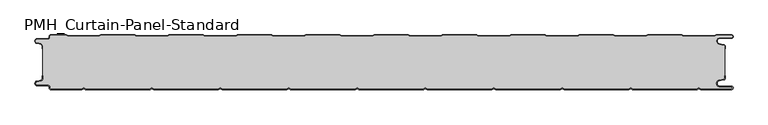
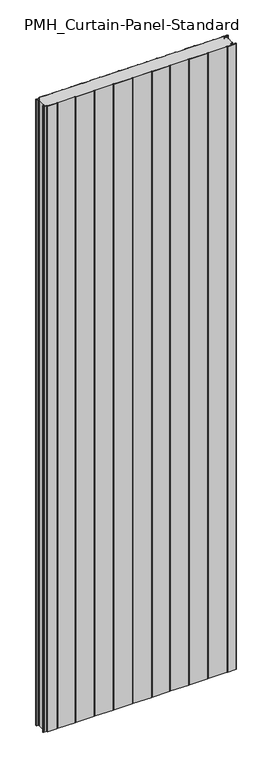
"""IFC4 building model written with IfcOpenShell, lengths in millimetres: plate geometry, PMH_Curtain-Panel-Standard : ACH_PMH_Acoustic-Sectioning-Panel_80M."""

from ifc_helpers import new_model, si_unit, point, frame_2d, origin, origin_with_axes, place, context, project, spatial, polyline, circle_curve, trimmed, segment, composite_curve, outline, extrude, source, transform, mapped, element, save


def pmh_curtain_panel_standard_897669c1(model_context):
    return source(origin(), model_context, "Body", "SweptSolid", [
        extrude(outline(composite_curve([segment(polyline([(-500.0, 15.878557), (-500.0, 20.0), (-499.2, 20.0), (-499.2, 15.878557)]), True, "CONTINUOUS"), segment(trimmed(circle_curve(frame_2d((-502.0, 15.878557)), 2.8), [point((-499.2, 15.878557))], [point((-501.370137, 13.1503208))], False, "CARTESIAN"), True, "CONTINUOUS"), segment(polyline([(-501.370137, 13.1503208), (-507.529863, 11.728236)]), True, "CONTINUOUS"), segment(trimmed(circle_curve(frame_2d((-506.9, 9.0)), 2.8), [point((-507.529863, 11.728236))], [point((-506.9, 6.2))], True, "CARTESIAN"), True, "CONTINUOUS"), segment(polyline([(-506.9, 6.2), (-491.4, 6.2)]), True, "CONTINUOUS"), segment(trimmed(circle_curve(frame_2d((-491.4, 3.4)), 2.8), [point((-491.4, 6.2))], [point((-488.6, 3.4))], False, "CARTESIAN"), True, "CONTINUOUS"), segment(polyline([(-488.6, 3.4), (-488.6, 2.0)]), True, "CONTINUOUS"), segment(trimmed(circle_curve(frame_2d((-487.4, 2.0)), 1.2), [point((-488.6, 2.0))], [point((-487.4, 0.8))], True, "CARTESIAN"), True, "CONTINUOUS"), segment(polyline([(-487.4, 0.8), (-442.3143588, 0.8), (-439.4, 2.482606), (-436.4856412, 0.8), (-342.3143588, 0.8), (-339.4, 2.482606), (-336.4856412, 0.8), (-242.3143588, 0.8), (-239.4, 2.482606), (-236.4856412, 0.8), (-142.3143588, 0.8), (-139.4, 2.482606), (-136.4856412, 0.8), (-42.3143588, 0.8), (-39.4, 2.482606), (-36.4856412, 0.8), (57.6856412, 0.8), (60.6, 2.482606), (63.5143588, 0.8), (157.6856412, 0.8), (160.6, 2.482606), (163.5143588, 0.8), (257.6856412, 0.8), (260.6, 2.482606), (263.5143588, 0.8), (357.6856412, 0.8), (360.6, 2.482606), (363.5143588, 0.8), (457.6856412, 0.8), (460.6, 2.482606), (463.5143588, 0.8), (508.1, 0.8)]), True, "CONTINUOUS"), segment(trimmed(circle_curve(frame_2d((508.1, 2.5)), 1.7), [point((508.1, 0.8))], [point((508.1, 4.2))], True, "CARTESIAN"), True, "CONTINUOUS"), segment(polyline([(508.1, 4.2), (491.1, 4.2)]), True, "CONTINUOUS"), segment(trimmed(circle_curve(frame_2d((491.1, 9.0)), 4.8), [point((491.1, 4.2))], [point((490.2664884, 13.7270771))], False, "CARTESIAN"), True, "CONTINUOUS"), segment(polyline([(490.2664884, 13.7270771), (496.7125669, 14.8636953)]), True, "CONTINUOUS"), segment(trimmed(circle_curve(frame_2d((496.4, 16.6363492)), 1.8), [point((496.7125669, 14.8636953))], [point((498.2, 16.6363492))], True, "CARTESIAN"), True, "CONTINUOUS"), segment(polyline([(498.2, 16.6363492), (498.2, 20.0), (499.0, 20.0), (499.0, 16.6363492)]), True, "CONTINUOUS"), segment(trimmed(circle_curve(frame_2d((496.4, 16.6363492)), 2.6), [point((499.0, 16.6363492))], [point((496.8514855, 14.0758491))], False, "CARTESIAN"), True, "CONTINUOUS"), segment(polyline([(496.8514855, 14.0758491), (490.405407, 12.939231)]), True, "CONTINUOUS"), segment(trimmed(circle_curve(frame_2d((491.1, 9.0)), 4.0), [point((490.405407, 12.939231))], [point((491.1, 5.0))], True, "CARTESIAN"), True, "CONTINUOUS"), segment(polyline([(491.1, 5.0), (508.1, 5.0)]), True, "CONTINUOUS"), segment(trimmed(circle_curve(frame_2d((508.1, 2.5)), 2.5), [point((508.1, 5.0))], [point((508.1, 0.0))], False, "CARTESIAN"), True, "CONTINUOUS"), segment(polyline([(508.1, 0.0), (463.2999995, 0.0), (460.6, 1.5588455), (457.9000005, 0.0), (363.2999995, 0.0), (360.6, 1.5588455), (357.9000005, 0.0), (263.2999995, 0.0), (260.6, 1.5588455), (257.9000005, 0.0), (163.2999995, 0.0), (160.6, 1.5588455), (157.9000005, 0.0), (63.2999995, 0.0), (60.6, 1.5588455), (57.9000005, 0.0), (-36.7000005, 0.0), (-39.4, 1.5588455), (-42.0999995, 0.0), (-136.7000005, 0.0), (-139.4, 1.5588455), (-142.0999995, 0.0), (-236.7000005, 0.0), (-239.4, 1.5588455), (-242.0999995, 0.0), (-336.7000005, 0.0), (-339.4, 1.5588455), (-342.0999995, 0.0), (-436.7000005, 0.0), (-439.4, 1.5588455), (-442.0999995, 0.0), (-487.4, 0.0)]), True, "CONTINUOUS"), segment(trimmed(circle_curve(frame_2d((-487.4, 2.0)), 2.0), [point((-487.4, 0.0))], [point((-489.4, 2.0))], False, "CARTESIAN"), True, "CONTINUOUS"), segment(polyline([(-489.4, 2.0), (-489.4, 3.4)]), True, "CONTINUOUS"), segment(trimmed(circle_curve(frame_2d((-491.4, 3.4)), 2.0), [point((-489.4, 3.4))], [point((-491.4, 5.4))], True, "CARTESIAN"), True, "CONTINUOUS"), segment(polyline([(-491.4, 5.4), (-506.9, 5.4)]), True, "CONTINUOUS"), segment(trimmed(circle_curve(frame_2d((-506.9, 9.0)), 3.6), [point((-506.9, 5.4))], [point((-507.7098239, 12.5077322))], False, "CARTESIAN"), True, "CONTINUOUS"), segment(polyline([(-507.7098239, 12.5077322), (-501.5500979, 13.929817)]), True, "CONTINUOUS"), segment(trimmed(circle_curve(frame_2d((-502.0, 15.878557)), 2.0), [point((-501.5500979, 13.929817))], [point((-500.0, 15.878557))], True, "CARTESIAN"), True, "CONTINUOUS")], self_intersect=False)), origin_with_axes(), (0.0, 0.0, 1.0), 3500.0),
        extrude(outline(composite_curve([segment(trimmed(circle_curve(frame_2d((-502.0, 64.121443)), 2.8), [point((-499.2, 64.121443))], [point((-501.370137, 66.8496792))], True, "CARTESIAN"), True, "CONTINUOUS"), segment(polyline([(-501.370137, 66.8496792), (-507.529863, 68.271764)]), True, "CONTINUOUS"), segment(trimmed(circle_curve(frame_2d((-506.9, 71.0)), 2.7999998), [point((-507.529863, 68.271764))], [point((-506.9, 73.7999998))], False, "CARTESIAN"), True, "CONTINUOUS"), segment(polyline([(-506.9, 73.7999998), (-491.4, 73.7999998)]), True, "CONTINUOUS"), segment(trimmed(circle_curve(frame_2d((-491.4, 76.5999998)), 2.8), [point((-491.4, 73.7999998))], [point((-488.6, 76.5999998))], True, "CARTESIAN"), True, "CONTINUOUS"), segment(polyline([(-488.6, 76.5999998), (-488.6, 78.0)]), True, "CONTINUOUS"), segment(trimmed(circle_curve(frame_2d((-487.4, 78.0)), 1.2), [point((-488.6, 78.0))], [point((-487.4, 79.2))], False, "CARTESIAN"), True, "CONTINUOUS"), segment(polyline([(-487.4, 79.2), (-464.6143592, 79.2), (-462.0162816, 77.7), (-416.7875654, 77.7), (-414.1894878, 79.2), (-364.6143592, 79.2), (-362.0162816, 77.7), (-316.7875654, 77.7), (-314.1894878, 79.2), (-264.6143592, 79.2), (-262.0162816, 77.7), (-216.7875654, 77.7), (-214.1894878, 79.2), (-164.6143592, 79.2), (-162.0162816, 77.7), (-116.7875654, 77.7), (-114.1894878, 79.2), (-64.6143592, 79.2), (-62.0162816, 77.7), (-16.7875654, 77.7), (-14.1894878, 79.2), (35.3856408, 79.2), (37.9837184, 77.7), (83.2124346, 77.7), (85.8105122, 79.2), (135.3856408, 79.2), (137.9837184, 77.7), (183.2124346, 77.7), (185.8105122, 79.2), (235.3856408, 79.2), (237.9837184, 77.7), (283.2124346, 77.7), (285.8105122, 79.2), (335.3856408, 79.2), (337.9837184, 77.7), (383.2124346, 77.7), (385.8105122, 79.2), (435.3856408, 79.2), (437.9837184, 77.7), (483.2124346, 77.7), (485.8105122, 79.2), (508.1, 79.2)]), True, "CONTINUOUS"), segment(trimmed(circle_curve(frame_2d((508.1, 77.5)), 1.7), [point((508.1, 79.2))], [point((508.1, 75.8000001))], False, "CARTESIAN"), True, "CONTINUOUS"), segment(polyline([(508.1, 75.8000001), (491.1, 75.8000001)]), True, "CONTINUOUS"), segment(trimmed(circle_curve(frame_2d((491.1, 71.0000002)), 4.7999999), [point((491.1, 75.8000001))], [point((490.266489, 66.272923))], True, "CARTESIAN"), True, "CONTINUOUS"), segment(polyline([(490.266489, 66.272923), (496.7125666, 65.1363059)]), True, "CONTINUOUS"), segment(trimmed(circle_curve(frame_2d((496.4, 63.363652)), 1.8), [point((496.7125666, 65.1363059))], [point((498.2, 63.363652))], False, "CARTESIAN"), True, "CONTINUOUS"), segment(polyline([(498.2, 63.363652), (498.2, 16.6363492)]), True, "CONTINUOUS"), segment(trimmed(circle_curve(frame_2d((496.4, 16.6363492)), 1.8), [point((498.2, 16.6363492))], [point((496.7125668, 14.8636953))], False, "CARTESIAN"), True, "CONTINUOUS"), segment(polyline([(496.7125668, 14.8636953), (490.2664883, 13.7270771)]), True, "CONTINUOUS"), segment(trimmed(circle_curve(frame_2d((491.1, 9.0)), 4.8), [point((490.2664883, 13.7270771))], [point((491.1, 4.2))], True, "CARTESIAN"), True, "CONTINUOUS"), segment(polyline([(491.1, 4.2), (508.1, 4.2)]), True, "CONTINUOUS"), segment(trimmed(circle_curve(frame_2d((508.1, 2.5)), 1.7), [point((508.1, 4.2))], [point((508.1, 0.8))], False, "CARTESIAN"), True, "CONTINUOUS"), segment(polyline([(508.1, 0.8), (463.5143587, 0.8), (460.5999999, 2.482606), (457.6856411, 0.8), (363.5143588, 0.8), (360.5999999, 2.482606), (357.6856411, 0.8), (263.5143588, 0.8), (260.5999999, 2.482606), (257.6856411, 0.8), (163.5143588, 0.8), (160.5999999, 2.482606), (157.6856411, 0.8), (63.5143588, 0.8), (60.5999999, 2.482606), (57.6856411, 0.8), (-36.4856412, 0.8), (-39.4000001, 2.482606), (-42.3143589, 0.8), (-136.4856412, 0.8), (-139.4000001, 2.482606), (-142.3143589, 0.8), (-236.4856412, 0.8), (-239.4000001, 2.482606), (-242.3143589, 0.8), (-336.4856412, 0.8), (-339.4000001, 2.482606), (-342.3143589, 0.8), (-436.4856412, 0.8), (-439.4000001, 2.482606), (-442.3143589, 0.8), (-487.4000001, 0.8)]), True, "CONTINUOUS"), segment(trimmed(circle_curve(frame_2d((-487.4000001, 2.0)), 1.2), [point((-487.4000001, 0.8))], [point((-488.6000001, 2.0))], False, "CARTESIAN"), True, "CONTINUOUS"), segment(polyline([(-488.6000001, 2.0), (-488.6000001, 3.4)]), True, "CONTINUOUS"), segment(trimmed(circle_curve(frame_2d((-491.4000001, 3.4)), 2.8), [point((-488.6000001, 3.4))], [point((-491.4000001, 6.2))], True, "CARTESIAN"), True, "CONTINUOUS"), segment(polyline([(-491.4000001, 6.2), (-506.9, 6.2)]), True, "CONTINUOUS"), segment(trimmed(circle_curve(frame_2d((-506.9, 9.0)), 2.8), [point((-506.9, 6.2))], [point((-507.5298631, 11.7282362))], False, "CARTESIAN"), True, "CONTINUOUS"), segment(polyline([(-507.5298631, 11.7282362), (-501.370137, 13.1503212)]), True, "CONTINUOUS"), segment(trimmed(circle_curve(frame_2d((-502.0, 15.8785573)), 2.8), [point((-501.370137, 13.1503212))], [point((-499.2, 15.8785573))], True, "CARTESIAN"), True, "CONTINUOUS"), segment(polyline([(-499.2, 15.8785573), (-499.2, 64.121443)]), True, "CONTINUOUS")], self_intersect=False)), origin_with_axes(), (0.0, 0.0, 1.0), 3500.0),
        extrude(outline(composite_curve([segment(polyline([(-487.4, 80.0), (-464.3999999, 80.0), (-461.8019223, 78.5), (-417.0019247, 78.5), (-414.4038471, 80.0), (-364.3999999, 80.0), (-361.8019223, 78.5), (-317.0019247, 78.5), (-314.4038471, 80.0), (-264.3999999, 80.0), (-261.8019223, 78.5), (-217.0019247, 78.5), (-214.4038471, 80.0), (-164.3999999, 80.0), (-161.8019223, 78.5), (-117.0019247, 78.5), (-114.4038471, 80.0), (-64.3999999, 80.0), (-61.8019223, 78.5), (-17.0019247, 78.5), (-14.4038471, 80.0), (35.6000001, 80.0), (38.1980777, 78.5), (82.9980753, 78.5), (85.5961529, 80.0), (135.6000001, 80.0), (138.1980777, 78.5), (182.9980753, 78.5), (185.5961529, 80.0), (235.6000001, 80.0), (238.1980777, 78.5), (282.9980753, 78.5), (285.5961529, 80.0), (335.6000001, 80.0), (338.1980777, 78.5), (382.9980753, 78.5), (385.5961529, 80.0), (435.6000001, 80.0), (438.1980777, 78.5), (482.9980753, 78.5), (485.5961529, 80.0), (508.1, 80.0)]), True, "CONTINUOUS"), segment(trimmed(circle_curve(frame_2d((508.1, 77.5)), 2.5), [point((508.1, 80.0))], [point((508.1, 75.0))], False, "CARTESIAN"), True, "CONTINUOUS"), segment(polyline([(508.1, 75.0), (491.1, 75.0)]), True, "CONTINUOUS"), segment(trimmed(circle_curve(frame_2d((491.1, 71.0)), 4.0), [point((491.1, 75.0))], [point((490.4054075, 67.060769))], True, "CARTESIAN"), True, "CONTINUOUS"), segment(polyline([(490.4054075, 67.060769), (496.8514851, 65.924152)]), True, "CONTINUOUS"), segment(trimmed(circle_curve(frame_2d((496.4, 63.363652)), 2.6), [point((496.8514851, 65.924152))], [point((499.0, 63.363652))], False, "CARTESIAN"), True, "CONTINUOUS"), segment(polyline([(499.0, 63.363652), (499.0, 60.0), (498.2, 60.0), (498.2, 63.363652)]), True, "CONTINUOUS"), segment(trimmed(circle_curve(frame_2d((496.4, 63.363652)), 1.8), [point((498.2, 63.363652))], [point((496.7125666, 65.136306))], True, "CARTESIAN"), True, "CONTINUOUS"), segment(polyline([(496.7125666, 65.136306), (490.266489, 66.2729229)]), True, "CONTINUOUS"), segment(trimmed(circle_curve(frame_2d((491.1, 71.0)), 4.8), [point((490.266489, 66.2729229))], [point((491.1, 75.8))], False, "CARTESIAN"), True, "CONTINUOUS"), segment(polyline([(491.1, 75.8), (508.1, 75.8)]), True, "CONTINUOUS"), segment(trimmed(circle_curve(frame_2d((508.1, 77.5)), 1.7), [point((508.1, 75.8))], [point((508.1, 79.2))], True, "CARTESIAN"), True, "CONTINUOUS"), segment(polyline([(508.1, 79.2), (485.8105122, 79.2), (483.2124346, 77.7), (437.9837184, 77.7), (435.3856408, 79.2), (385.8105122, 79.2), (383.2124346, 77.7), (337.9837184, 77.7), (335.3856408, 79.2), (285.8105122, 79.2), (283.2124346, 77.7), (237.9837184, 77.7), (235.3856408, 79.2), (185.8105122, 79.2), (183.2124346, 77.7), (137.9837184, 77.7), (135.3856408, 79.2), (85.8105122, 79.2), (83.2124346, 77.7), (37.9837184, 77.7), (35.3856408, 79.2), (-14.1894878, 79.2), (-16.7875654, 77.7), (-62.0162816, 77.7), (-64.6143592, 79.2), (-114.1894878, 79.2), (-116.7875654, 77.7), (-162.0162816, 77.7), (-164.6143592, 79.2), (-214.1894878, 79.2), (-216.7875654, 77.7), (-262.0162816, 77.7), (-264.6143592, 79.2), (-314.1894878, 79.2), (-316.7875654, 77.7), (-362.0162816, 77.7), (-364.6143592, 79.2), (-414.1894878, 79.2), (-416.7875654, 77.7), (-462.0162816, 77.7), (-464.6143592, 79.2), (-487.4, 79.2)]), True, "CONTINUOUS"), segment(trimmed(circle_curve(frame_2d((-487.4, 78.0)), 1.2), [point((-487.4, 79.2))], [point((-488.6, 78.0))], True, "CARTESIAN"), True, "CONTINUOUS"), segment(polyline([(-488.6, 78.0), (-488.6, 76.6)]), True, "CONTINUOUS"), segment(trimmed(circle_curve(frame_2d((-491.4, 76.6)), 2.8), [point((-488.6, 76.6))], [point((-491.4, 73.8))], False, "CARTESIAN"), True, "CONTINUOUS"), segment(polyline([(-491.4, 73.8), (-506.9, 73.8)]), True, "CONTINUOUS"), segment(trimmed(circle_curve(frame_2d((-506.9, 71.0)), 2.8), [point((-506.9, 73.8))], [point((-507.529863, 68.2717638))], True, "CARTESIAN"), True, "CONTINUOUS"), segment(polyline([(-507.529863, 68.2717638), (-501.370137, 66.849679)]), True, "CONTINUOUS"), segment(trimmed(circle_curve(frame_2d((-502.0, 64.121443)), 2.8), [point((-501.370137, 66.849679))], [point((-499.2, 64.121443))], False, "CARTESIAN"), True, "CONTINUOUS"), segment(polyline([(-499.2, 64.121443), (-499.2, 60.0), (-500.0, 60.0), (-500.0, 64.121443)]), True, "CONTINUOUS"), segment(trimmed(circle_curve(frame_2d((-502.0, 64.121443)), 2.0), [point((-500.0, 64.121443))], [point((-501.5500978, 66.0701831))], True, "CARTESIAN"), True, "CONTINUOUS"), segment(polyline([(-501.5500978, 66.0701831), (-507.7098239, 67.492268)]), True, "CONTINUOUS"), segment(trimmed(circle_curve(frame_2d((-506.9, 71.0)), 3.6), [point((-507.7098239, 67.492268))], [point((-506.9, 74.6))], False, "CARTESIAN"), True, "CONTINUOUS"), segment(polyline([(-506.9, 74.6), (-491.4, 74.6)]), True, "CONTINUOUS"), segment(trimmed(circle_curve(frame_2d((-491.4, 76.6)), 2.0), [point((-491.4, 74.6))], [point((-489.4, 76.6))], True, "CARTESIAN"), True, "CONTINUOUS"), segment(polyline([(-489.4, 76.6), (-489.4, 78.0)]), True, "CONTINUOUS"), segment(trimmed(circle_curve(frame_2d((-487.4, 78.0)), 2.0), [point((-489.4, 78.0))], [point((-487.4, 80.0))], False, "CARTESIAN"), True, "CONTINUOUS")], self_intersect=False)), origin_with_axes(), (0.0, 0.0, 1.0), 3500.0),
    ])


if __name__ == "__main__":
    model = new_model("IFC4")
    model_context = context("Model", 3, world=origin())
    ifc_project = project(units=[si_unit("LENGTHUNIT", "METRE", prefix="MILLI")], contexts=[model_context])
    site = spatial("IfcSite", under=ifc_project)
    building = spatial("IfcBuilding", under=site)
    placement = place(None, origin())
    pmh_curtain_panel_standard_shape = pmh_curtain_panel_standard_897669c1(model_context)
    element("IfcPlate", 1, ObjectType="PMH_Curtain-Panel-Standard : ACH_PMH_Acoustic-Sectioning-Panel_80M", at=placement, inside=building, context=model_context, shape_type="MappedRepresentation", body=[
        mapped(pmh_curtain_panel_standard_shape, transform((0.0, 0.0, 0.0), x_axis=(1.0, 0.0, 0.0), y_axis=(0.0, 1.0, 0.0), z_axis=(0.0, 0.0, 1.0))),
    ])
    save(model, "model.ifc")
